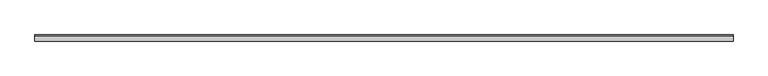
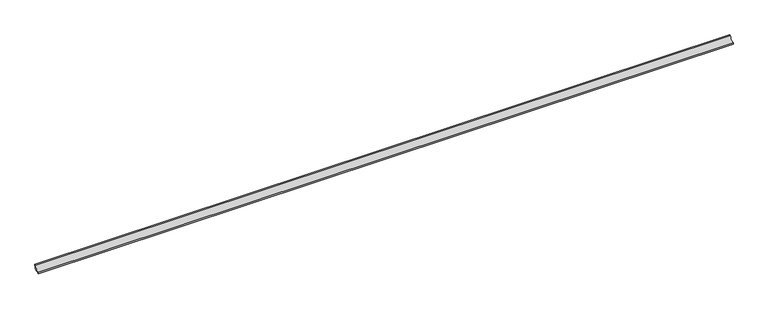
"""IFC4 building model written with IfcOpenShell, lengths in millimetres: proxy geometry, EXAGRES - Piscina Mediacaña1 : Publica_Azul_24.5x4cm."""

from ifc_helpers import new_model, si_unit, point, frame, frame_2d, origin, place, context, project, spatial, polyline, circle_curve, trimmed, segment, composite_curve, outline, extrude, source, transform, mapped, element, save


def generic_models_80b3ed26(model_context):
    return source(origin(), model_context, "Body", "SweptSolid", [
        extrude(outline(composite_curve([segment(trimmed(circle_curve(frame_2d((-26.0, 26.0)), 26.0), [point((-26.0, 0.0))], [point((0.0, 26.0))], True, "CARTESIAN"), True, "CONTINUOUS"), segment(polyline([(0.0, 26.0), (8.5, 26.0)]), True, "CONTINUOUS"), segment(trimmed(circle_curve(frame_2d((-26.0, 26.0)), 34.5), [point((8.5, 26.0))], [point((-26.0, -8.5))], False, "CARTESIAN"), True, "CONTINUOUS"), segment(polyline([(-26.0, -8.5), (-26.0, 0.0)]), True, "CONTINUOUS")], self_intersect=False)), frame((0.0, 0.0, 0.0), z_axis=(1.0, 0.0, 0.0), x_axis=(0.0, 1.0, 0.0)), (0.0, 0.0, 1.0), 3948.0),
    ])


if __name__ == "__main__":
    model = new_model("IFC4")
    model_context = context("Model", 3, world=origin())
    ifc_project = project(units=[si_unit("LENGTHUNIT", "METRE", prefix="MILLI")], contexts=[model_context])
    site = spatial("IfcSite", under=ifc_project)
    building = spatial("IfcBuilding", under=site)
    placement = place(None, origin())
    generic_models_shape = generic_models_80b3ed26(model_context)
    element("IfcBuildingElementProxy", 1, Name="EXAGRES - Piscina Mediacaña1 : Publica_Azul_24.5x4cm", ObjectType="EXAGRES - Piscina Mediacaña1 : Publica_Azul_24.5x4cm", at=placement, inside=building, context=model_context, shape_type="MappedRepresentation", body=[
        mapped(generic_models_shape, transform((0.0, 0.0, 0.0), x_axis=(1.0, 0.0, 0.0), y_axis=(0.0, 1.0, 0.0), z_axis=(0.0, 0.0, 1.0))),
    ])
    save(model, "model.ifc")
